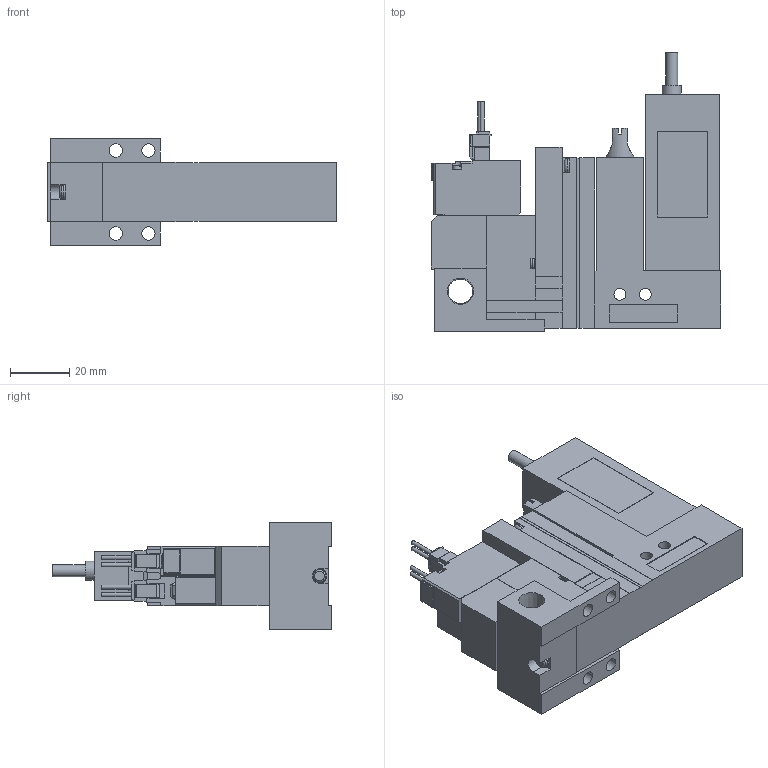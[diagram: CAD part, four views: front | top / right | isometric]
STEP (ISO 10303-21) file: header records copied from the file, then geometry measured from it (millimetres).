
FILE_DESCRIPTION(('STEP AP203'),'1');
FILE_NAME('VG_VGPLC5ALR101.stp','2025-02-18T05:33:23',(' '),(' '),'Spatial InterOp 3D',' ',' ');
FILE_SCHEMA(('CONFIG_CONTROL_DESIGN'));
Length unit declared in the file: millimetre
Products named in the file (5): BMC22M※※※※VG_VGPLC5ALR101; Solenoid valve A; Pressure sensor VGLC; Unit LC; Base MR10R
Assembly tree (4 placements, depth 2):
  BMC22M※※※※VG_VGPLC5ALR101
    Solenoid valve A
    Pressure sensor VGLC
    Unit LC
    Base MR10R
Bounding box: 97.6 x 94 x 36 mm (x, y, z)
Volume: 117500 mm3; surface area: 31572.5 mm2
Topology: 4 solids, 4 shells, 436 faces, 1169 edges, 770 vertices
Faces by surface type: plane 366, cylinder 56, cone 9, torus 5
Full cylindrical faces by diameter (mm): 1.4 x4, 2.5 x3, 3 x4, 3.5 x4, 3.6 x1, 4 x6, 4.134 x1, 4.5 x4, 5.2 x1, 6 x1, 6.5 x1, 6.6 x1, 8.279 x1
Entity records: 13472 total; most frequent: CARTESIAN_POINT 2484, ORIENTED_EDGE 2198, DIRECTION 2125, EDGE_CURVE 1099, LINE 941, VECTOR 941, VERTEX_POINT 750, AXIS2_PLACEMENT_3D 592
